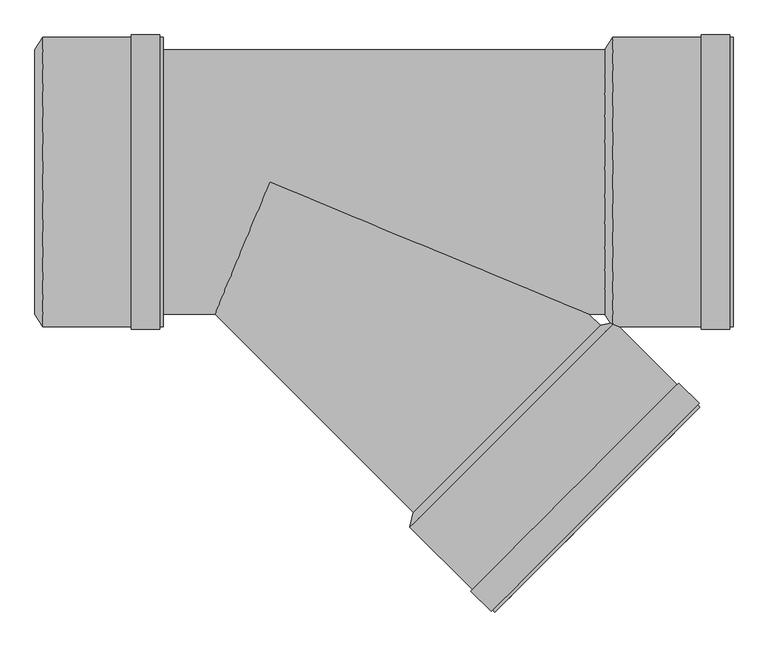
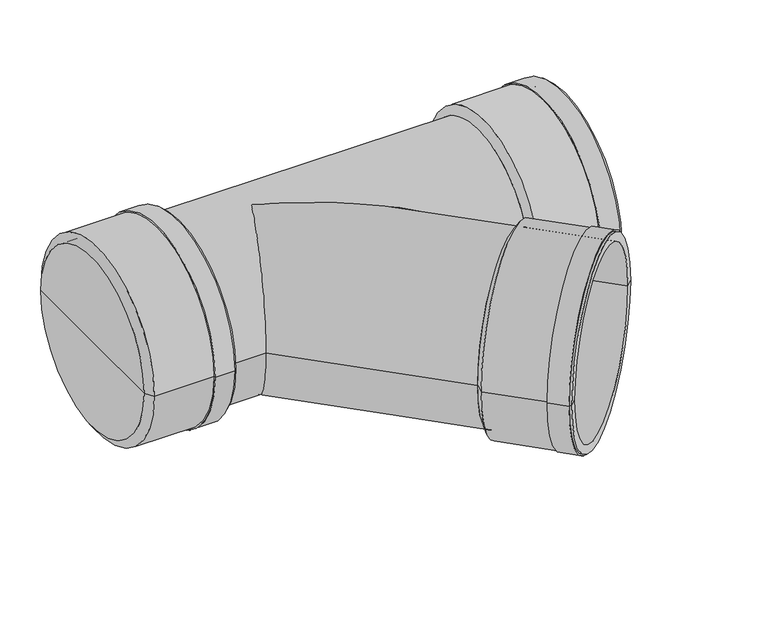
"""IFC4 building model written with IfcOpenShell, lengths in millimetres: pipe fitting geometry, pf_KGEA : pf_KGEA."""

from ifc_helpers import new_model, si_unit, frame, origin, place, context, project, spatial, polyline, circle_curve, ellipse_curve, source, transform, mapped, element, save
from ifc_brep_helpers import plane_surface, cylinder_surface, revolved_surface, advanced_brep


def pipe_fitting_2ef12dd6(model_context):
    return source(origin(), model_context, "Body", "AdvancedBrep", [
        advanced_brep(
        [(217.0110711, -499.8537836, 0.0), (499.8537836, -217.0110711, 0.0), (521.9862259, -212.1320344, 0.0), (212.1320344, -521.9862259, 0.0), (358.4324274, -358.4324274, 0.0), (340.6840472, -650.5382387, 0.0), (650.5382387, -340.6840472, 0.0), (637.0324992, -354.1897867, 0.0), (354.1897867, -637.0324992, 0.0), (337.2899346, -647.1441261, 0.0), (647.1441261, -337.2899346, 0.0), (334.8857716, -649.5482892, 0.0), (649.5482892, -334.8857716, 0.0), (304.0559159, -618.7184335, 0.0), (618.7184335, -304.0559159, 0.0), (306.460079, -616.3142705, 0.0), (616.3142705, -306.460079, 0.0), (225.6377739, -508.4804864, 0.0), (508.4804864, -225.6377739, 0.0), (367.0591301, -367.0591301, 0.0)],
        [
            (0, 1, circle_curve(frame((358.4324274, -358.4324274, 0.0), z_axis=(0.7071067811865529, -0.7071067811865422, 0.0), x_axis=(0.7071067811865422, 0.7071067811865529, 0.0)), 200.0)),
            (1, 2),
            (2, 3, circle_curve(frame((367.0591301, -367.0591301, 0.0), z_axis=(-0.7071067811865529, 0.7071067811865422, 0.0), x_axis=(0.7071067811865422, 0.7071067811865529, 0.0)), 219.1)),
            (3, 0),
            (1, 0, circle_curve(frame((358.4324274, -358.4324274, 0.0), z_axis=(0.7071067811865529, -0.7071067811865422, 0.0), x_axis=(0.7071067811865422, 0.7071067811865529, 0.0)), 200.0)),
            (3, 2, circle_curve(frame((367.0591301, -367.0591301, 0.0), z_axis=(-0.7071067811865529, 0.7071067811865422, 0.0), x_axis=(0.7071067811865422, 0.7071067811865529, 0.0)), 219.1)),
            (4, 1),
            (0, 4),
            (5, 6, circle_curve(frame((495.6111429, -495.6111429, 0.0), z_axis=(0.7071067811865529, -0.7071067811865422, 0.0), x_axis=(0.7071067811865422, 0.7071067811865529, 0.0)), 219.1)),
            (6, 7),
            (7, 8, circle_curve(frame((495.6111429, -495.6111429, 0.0), z_axis=(-0.7071067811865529, 0.7071067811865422, 0.0), x_axis=(0.7071067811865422, 0.7071067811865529, 0.0)), 200.0)),
            (8, 5),
            (6, 5, circle_curve(frame((495.6111429, -495.6111429, 0.0), z_axis=(0.7071067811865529, -0.7071067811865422, 0.0), x_axis=(0.7071067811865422, 0.7071067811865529, 0.0)), 219.1)),
            (8, 7, circle_curve(frame((495.6111429, -495.6111429, 0.0), z_axis=(-0.7071067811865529, 0.7071067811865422, 0.0), x_axis=(0.7071067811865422, 0.7071067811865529, 0.0)), 200.0)),
            (9, 10, circle_curve(frame((492.2170304, -492.2170304, 0.0), z_axis=(0.7071067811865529, -0.7071067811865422, 0.0), x_axis=(0.7071067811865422, 0.7071067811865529, 0.0)), 219.1)),
            (10, 6),
            (5, 9),
            (10, 9, circle_curve(frame((492.2170304, -492.2170304, 0.0), z_axis=(0.7071067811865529, -0.7071067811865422, 0.0), x_axis=(0.7071067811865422, 0.7071067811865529, 0.0)), 219.1)),
            (11, 12, circle_curve(frame((492.2170304, -492.2170304, 0.0), z_axis=(0.7071067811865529, -0.7071067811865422, 0.0), x_axis=(0.7071067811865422, 0.7071067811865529, 0.0)), 222.5)),
            (12, 10),
            (9, 11),
            (12, 11, circle_curve(frame((492.2170304, -492.2170304, 0.0), z_axis=(0.7071067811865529, -0.7071067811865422, 0.0), x_axis=(0.7071067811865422, 0.7071067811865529, 0.0)), 222.5)),
            (13, 14, circle_curve(frame((461.3871747, -461.3871747, 0.0), z_axis=(0.7071067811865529, -0.7071067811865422, 0.0), x_axis=(0.7071067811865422, 0.7071067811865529, 0.0)), 222.5)),
            (14, 12),
            (11, 13),
            (14, 13, circle_curve(frame((461.3871747, -461.3871747, 0.0), z_axis=(0.7071067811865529, -0.7071067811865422, 0.0), x_axis=(0.7071067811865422, 0.7071067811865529, 0.0)), 222.5)),
            (15, 16, circle_curve(frame((461.3871747, -461.3871747, 0.0), z_axis=(0.7071067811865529, -0.7071067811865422, 0.0), x_axis=(0.7071067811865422, 0.7071067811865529, 0.0)), 219.1)),
            (16, 14),
            (13, 15),
            (16, 15, circle_curve(frame((461.3871747, -461.3871747, 0.0), z_axis=(0.7071067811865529, -0.7071067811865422, 0.0), x_axis=(0.7071067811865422, 0.7071067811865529, 0.0)), 219.1)),
            (2, 16),
            (15, 3),
            (17, 18, circle_curve(frame((367.0591301, -367.0591301, 0.0), z_axis=(0.7071067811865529, -0.7071067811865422, 0.0), x_axis=(0.7071067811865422, 0.7071067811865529, 0.0)), 200.0)),
            (18, 19),
            (19, 17),
            (18, 17, circle_curve(frame((367.0591301, -367.0591301, 0.0), z_axis=(0.7071067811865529, -0.7071067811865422, 0.0), x_axis=(0.7071067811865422, 0.7071067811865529, 0.0)), 200.0)),
            (7, 18),
            (17, 8),
        ],
        [
            revolved_surface(polyline([(521.9862259, -212.1320344, 0.0), (499.8537836, -217.0110711, 0.0)]), (358.4324274, -358.4324274, 0.0), (-0.7071067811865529, 0.7071067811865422, 0.0)),
            plane_surface(frame((358.4324274, -358.4324274, 0.0), z_axis=(-0.7071067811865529, 0.7071067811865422, 0.0), x_axis=(0.7071067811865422, 0.7071067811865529, 0.0))),
            plane_surface(frame((495.6111429, -495.6111429, 0.0), z_axis=(0.7071067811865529, -0.7071067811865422, 0.0), x_axis=(0.7071067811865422, 0.7071067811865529, 0.0))),
            cylinder_surface(frame((358.4324274, -358.4324274, 0.0), z_axis=(-0.7071067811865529, 0.7071067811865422, 0.0), x_axis=(0.7071067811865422, 0.7071067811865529, 0.0)), 219.1),
            plane_surface(frame((492.2170304, -492.2170304, 0.0), z_axis=(0.7071067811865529, -0.7071067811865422, 0.0), x_axis=(0.7071067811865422, 0.7071067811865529, 0.0))),
            cylinder_surface(frame((358.4324274, -358.4324274, 0.0), z_axis=(-0.7071067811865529, 0.7071067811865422, 0.0), x_axis=(0.7071067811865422, 0.7071067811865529, 0.0)), 222.5),
            plane_surface(frame((461.3871747, -461.3871747, 0.0), z_axis=(-0.7071067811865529, 0.7071067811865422, 0.0), x_axis=(0.7071067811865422, 0.7071067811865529, 0.0))),
            plane_surface(frame((367.0591301, -367.0591301, 0.0), z_axis=(0.7071067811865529, -0.7071067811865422, 0.0), x_axis=(0.7071067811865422, 0.7071067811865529, 0.0))),
            revolved_surface(polyline([(508.4804863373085, -225.63777386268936, 0.0), (637.0324991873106, -354.18978671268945, 0.0)]), (358.4324274, -358.4324274, 0.0), (-0.7071067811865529, 0.7071067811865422, 0.0)),
        ],
        [
            (0, [[1, 2, 3, 4]]),
            (0, [[5, -4, 6, -2]]),
            (1, [[7, -1, 8]]),
            (1, [[-8, -5, -7]]),
            (2, [[9, 10, 11, 12]]),
            (2, [[13, -12, 14, -10]]),
            (3, [[15, 16, -9, 17]]),
            (3, [[18, -17, -13, -16]]),
            (4, [[19, 20, -15, 21]]),
            (4, [[22, -21, -18, -20]]),
            (5, [[23, 24, -19, 25]]),
            (5, [[26, -25, -22, -24]]),
            (6, [[27, 28, -23, 29]]),
            (6, [[30, -29, -26, -28]]),
            (3, [[-3, 31, -27, 32]]),
            (3, [[-6, -32, -30, -31]]),
            (7, [[33, 34, 35]]),
            (7, [[36, -35, -34]]),
            (8, [[-11, 37, -33, 38]]),
            (8, [[-14, -38, -36, -37]]),
        ],
    ),
        advanced_brep(
        [(506.9, -200.0, 0.0), (506.9, 200.0, 0.0), (519.1, 219.1, 0.0), (519.1, -219.1, 0.0), (506.9, 0.0, 0.0), (700.9, -219.1, 0.0), (700.9, 219.1, 0.0), (700.9, 200.0, 0.0), (700.9, -200.0, 0.0), (696.1, -219.1, 0.0), (696.1, 219.1, 0.0), (696.1, -222.5, 0.0), (696.1, 222.5, 0.0), (652.5, -222.5, 0.0), (652.5, 222.5, 0.0), (652.5, -219.1, 0.0), (652.5, 219.1, 0.0), (519.1, -200.0, 0.0), (519.1, 200.0, 0.0), (519.1, 0.0, 0.0)],
        [
            (0, 1, circle_curve(frame((506.9, 0.0, 0.0), z_axis=(1.0, 0.0, 0.0), x_axis=(0.0, 1.0, 0.0)), 200.0)),
            (1, 2),
            (2, 3, circle_curve(frame((519.1, 0.0, 0.0), z_axis=(-1.0, 0.0, 0.0), x_axis=(0.0, 1.0, 0.0)), 219.1)),
            (3, 0),
            (1, 0, circle_curve(frame((506.9, 0.0, 0.0), z_axis=(1.0, 0.0, 0.0), x_axis=(0.0, 1.0, 0.0)), 200.0)),
            (3, 2, circle_curve(frame((519.1, 0.0, 0.0), z_axis=(-1.0, 0.0, 0.0), x_axis=(0.0, 1.0, 0.0)), 219.1)),
            (4, 1),
            (0, 4),
            (5, 6, circle_curve(frame((700.9, 0.0, 0.0), z_axis=(1.0, 0.0, 0.0), x_axis=(0.0, 1.0, 0.0)), 219.1)),
            (6, 7),
            (7, 8, circle_curve(frame((700.9, 0.0, 0.0), z_axis=(-1.0, 0.0, 0.0), x_axis=(0.0, 1.0, 0.0)), 200.0)),
            (8, 5),
            (6, 5, circle_curve(frame((700.9, 0.0, 0.0), z_axis=(1.0, 0.0, 0.0), x_axis=(0.0, 1.0, 0.0)), 219.1)),
            (8, 7, circle_curve(frame((700.9, 0.0, 0.0), z_axis=(-1.0, 0.0, 0.0), x_axis=(0.0, 1.0, 0.0)), 200.0)),
            (9, 10, circle_curve(frame((696.1, 0.0, 0.0), z_axis=(1.0, 0.0, 0.0), x_axis=(0.0, 1.0, 0.0)), 219.1)),
            (10, 6),
            (5, 9),
            (10, 9, circle_curve(frame((696.1, 0.0, 0.0), z_axis=(1.0, 0.0, 0.0), x_axis=(0.0, 1.0, 0.0)), 219.1)),
            (11, 12, circle_curve(frame((696.1, 0.0, 0.0), z_axis=(1.0, 0.0, 0.0), x_axis=(0.0, 1.0, 0.0)), 222.5)),
            (12, 10),
            (9, 11),
            (12, 11, circle_curve(frame((696.1, 0.0, 0.0), z_axis=(1.0, 0.0, 0.0), x_axis=(0.0, 1.0, 0.0)), 222.5)),
            (13, 14, circle_curve(frame((652.5, 0.0, 0.0), z_axis=(1.0, 0.0, 0.0), x_axis=(0.0, 1.0, 0.0)), 222.5)),
            (14, 12),
            (11, 13),
            (14, 13, circle_curve(frame((652.5, 0.0, 0.0), z_axis=(1.0, 0.0, 0.0), x_axis=(0.0, 1.0, 0.0)), 222.5)),
            (15, 16, circle_curve(frame((652.5, 0.0, 0.0), z_axis=(1.0, 0.0, 0.0), x_axis=(0.0, 1.0, 0.0)), 219.1)),
            (16, 14),
            (13, 15),
            (16, 15, circle_curve(frame((652.5, 0.0, 0.0), z_axis=(1.0, 0.0, 0.0), x_axis=(0.0, 1.0, 0.0)), 219.1)),
            (2, 16),
            (15, 3),
            (17, 18, circle_curve(frame((519.1, 0.0, 0.0), z_axis=(1.0, 0.0, 0.0), x_axis=(0.0, 1.0, 0.0)), 200.0)),
            (18, 19),
            (19, 17),
            (18, 17, circle_curve(frame((519.1, 0.0, 0.0), z_axis=(1.0, 0.0, 0.0), x_axis=(0.0, 1.0, 0.0)), 200.0)),
            (7, 18),
            (17, 8),
        ],
        [
            revolved_surface(polyline([(519.1, 219.1, 0.0), (506.9, 200.0, 0.0)]), (506.9, 0.0, 0.0), (-1.0, 0.0, 0.0)),
            plane_surface(frame((506.9, 0.0, 0.0), z_axis=(-1.0, 0.0, 0.0), x_axis=(0.0, 1.0, 0.0))),
            plane_surface(frame((700.9, 0.0, 0.0), z_axis=(1.0, 0.0, 0.0), x_axis=(0.0, 1.0, 0.0))),
            cylinder_surface(frame((506.9, 0.0, 0.0), z_axis=(-1.0, 0.0, 0.0), x_axis=(0.0, 1.0, 0.0)), 219.1),
            plane_surface(frame((696.1, 0.0, 0.0), z_axis=(1.0, 0.0, 0.0), x_axis=(0.0, 1.0, 0.0))),
            cylinder_surface(frame((506.9, 0.0, 0.0), z_axis=(-1.0, 0.0, 0.0), x_axis=(0.0, 1.0, 0.0)), 222.5),
            plane_surface(frame((652.5, 0.0, 0.0), z_axis=(-1.0, 0.0, 0.0), x_axis=(0.0, 1.0, 0.0))),
            plane_surface(frame((519.1, 0.0, 0.0), z_axis=(1.0, 0.0, 0.0), x_axis=(0.0, 1.0, 0.0))),
            revolved_surface(polyline([(519.1, 200.0, 0.0), (700.9, 200.0, 0.0)]), (506.9, 0.0, 0.0), (-1.0, 0.0, 0.0)),
        ],
        [
            (0, [[1, 2, 3, 4]]),
            (0, [[5, -4, 6, -2]]),
            (1, [[7, -1, 8]]),
            (1, [[-8, -5, -7]]),
            (2, [[9, 10, 11, 12]]),
            (2, [[13, -12, 14, -10]]),
            (3, [[15, 16, -9, 17]]),
            (3, [[18, -17, -13, -16]]),
            (4, [[19, 20, -15, 21]]),
            (4, [[22, -21, -18, -20]]),
            (5, [[23, 24, -19, 25]]),
            (5, [[26, -25, -22, -24]]),
            (6, [[27, 28, -23, 29]]),
            (6, [[30, -29, -26, -28]]),
            (3, [[-3, 31, -27, 32]]),
            (3, [[-6, -32, -30, -31]]),
            (7, [[33, 34, 35]]),
            (7, [[36, -35, -34]]),
            (8, [[-11, 37, -33, 38]]),
            (8, [[-14, -38, -36, -37]]),
        ],
    ),
        advanced_brep(
        [(-355.3, -200.0, 0.0), (-355.3, 200.0, 0.0), (-343.1, 219.1, 0.0), (-343.1, -219.1, 0.0), (-355.3, 0.0, 0.0), (-161.3, -219.1, 0.0), (-161.3, 219.1, 0.0), (-161.3, 200.0, 0.0), (-161.3, -200.0, 0.0), (-166.1, -219.1, 0.0), (-166.1, 219.1, 0.0), (-166.1, -222.5, 0.0), (-166.1, 222.5, 0.0), (-209.7, -222.5, 0.0), (-209.7, 222.5, 0.0), (-209.7, -219.1, 0.0), (-209.7, 219.1, 0.0), (-343.1, -200.0, 0.0), (-343.1, 200.0, 0.0), (-343.1, 0.0, 0.0)],
        [
            (0, 1, circle_curve(frame((-355.3, 0.0, 0.0), z_axis=(1.0, 0.0, 0.0), x_axis=(0.0, 1.0, 0.0)), 200.0)),
            (1, 2),
            (2, 3, circle_curve(frame((-343.1, 0.0, 0.0), z_axis=(-1.0, 0.0, 0.0), x_axis=(0.0, 1.0, 0.0)), 219.1)),
            (3, 0),
            (1, 0, circle_curve(frame((-355.3, 0.0, 0.0), z_axis=(1.0, 0.0, 0.0), x_axis=(0.0, 1.0, 0.0)), 200.0)),
            (3, 2, circle_curve(frame((-343.1, 0.0, 0.0), z_axis=(-1.0, 0.0, 0.0), x_axis=(0.0, 1.0, 0.0)), 219.1)),
            (4, 1),
            (0, 4),
            (5, 6, circle_curve(frame((-161.3, 0.0, 0.0), z_axis=(1.0, 0.0, 0.0), x_axis=(0.0, 1.0, 0.0)), 219.1)),
            (6, 7),
            (7, 8, circle_curve(frame((-161.3, 0.0, 0.0), z_axis=(-1.0, 0.0, 0.0), x_axis=(0.0, 1.0, 0.0)), 200.0)),
            (8, 5),
            (6, 5, circle_curve(frame((-161.3, 0.0, 0.0), z_axis=(1.0, 0.0, 0.0), x_axis=(0.0, 1.0, 0.0)), 219.1)),
            (8, 7, circle_curve(frame((-161.3, 0.0, 0.0), z_axis=(-1.0, 0.0, 0.0), x_axis=(0.0, 1.0, 0.0)), 200.0)),
            (9, 10, circle_curve(frame((-166.1, 0.0, 0.0), z_axis=(1.0, 0.0, 0.0), x_axis=(0.0, 1.0, 0.0)), 219.1)),
            (10, 6),
            (5, 9),
            (10, 9, circle_curve(frame((-166.1, 0.0, 0.0), z_axis=(1.0, 0.0, 0.0), x_axis=(0.0, 1.0, 0.0)), 219.1)),
            (11, 12, circle_curve(frame((-166.1, 0.0, 0.0), z_axis=(1.0, 0.0, 0.0), x_axis=(0.0, 1.0, 0.0)), 222.5)),
            (12, 10),
            (9, 11),
            (12, 11, circle_curve(frame((-166.1, 0.0, 0.0), z_axis=(1.0, 0.0, 0.0), x_axis=(0.0, 1.0, 0.0)), 222.5)),
            (13, 14, circle_curve(frame((-209.7, 0.0, 0.0), z_axis=(1.0, 0.0, 0.0), x_axis=(0.0, 1.0, 0.0)), 222.5)),
            (14, 12),
            (11, 13),
            (14, 13, circle_curve(frame((-209.7, 0.0, 0.0), z_axis=(1.0, 0.0, 0.0), x_axis=(0.0, 1.0, 0.0)), 222.5)),
            (15, 16, circle_curve(frame((-209.7, 0.0, 0.0), z_axis=(1.0, 0.0, 0.0), x_axis=(0.0, 1.0, 0.0)), 219.1)),
            (16, 14),
            (13, 15),
            (16, 15, circle_curve(frame((-209.7, 0.0, 0.0), z_axis=(1.0, 0.0, 0.0), x_axis=(0.0, 1.0, 0.0)), 219.1)),
            (2, 16),
            (15, 3),
            (17, 18, circle_curve(frame((-343.1, 0.0, 0.0), z_axis=(1.0, 0.0, 0.0), x_axis=(0.0, 1.0, 0.0)), 200.0)),
            (18, 19),
            (19, 17),
            (18, 17, circle_curve(frame((-343.1, 0.0, 0.0), z_axis=(1.0, 0.0, 0.0), x_axis=(0.0, 1.0, 0.0)), 200.0)),
            (7, 18),
            (17, 8),
        ],
        [
            revolved_surface(polyline([(-343.1, 219.1, 0.0), (-355.3, 200.0, 0.0)]), (-355.3, 0.0, 0.0), (-1.0, 0.0, 0.0)),
            plane_surface(frame((-355.3, 0.0, 0.0), z_axis=(-1.0, 0.0, 0.0), x_axis=(0.0, 1.0, 0.0))),
            plane_surface(frame((-161.3, 0.0, 0.0), z_axis=(1.0, 0.0, 0.0), x_axis=(0.0, 1.0, 0.0))),
            cylinder_surface(frame((-355.3, 0.0, 0.0), z_axis=(-1.0, 0.0, 0.0), x_axis=(0.0, 1.0, 0.0)), 219.1),
            plane_surface(frame((-166.1, 0.0, 0.0), z_axis=(1.0, 0.0, 0.0), x_axis=(0.0, 1.0, 0.0))),
            cylinder_surface(frame((-355.3, 0.0, 0.0), z_axis=(-1.0, 0.0, 0.0), x_axis=(0.0, 1.0, 0.0)), 222.5),
            plane_surface(frame((-209.7, 0.0, 0.0), z_axis=(-1.0, 0.0, 0.0), x_axis=(0.0, 1.0, 0.0))),
            plane_surface(frame((-343.1, 0.0, 0.0), z_axis=(1.0, 0.0, 0.0), x_axis=(0.0, 1.0, 0.0))),
            revolved_surface(polyline([(-343.1, 200.0, 0.0), (-161.3, 200.0, 0.0)]), (-355.3, 0.0, 0.0), (-1.0, 0.0, 0.0)),
        ],
        [
            (0, [[1, 2, 3, 4]]),
            (0, [[5, -4, 6, -2]]),
            (1, [[7, -1, 8]]),
            (1, [[-8, -5, -7]]),
            (2, [[9, 10, 11, 12]]),
            (2, [[13, -12, 14, -10]]),
            (3, [[15, 16, -9, 17]]),
            (3, [[18, -17, -13, -16]]),
            (4, [[19, 20, -15, 21]]),
            (4, [[22, -21, -18, -20]]),
            (5, [[23, 24, -19, 25]]),
            (5, [[26, -25, -22, -24]]),
            (6, [[27, 28, -23, 29]]),
            (6, [[30, -29, -26, -28]]),
            (3, [[-3, 31, -27, 32]]),
            (3, [[-6, -32, -30, -31]]),
            (7, [[33, 34, 35]]),
            (7, [[36, -35, -34]]),
            (8, [[-11, 37, -33, 38]]),
            (8, [[-14, -38, -36, -37]]),
        ],
    ),
        advanced_brep(
        [(-343.1, -200.0, 0.0), (-343.1, 200.0, 0.0), (506.9, -200.0, 0.0), (506.9, 200.0, 0.0), (-82.8427125, -200.0, 0.0), (0.0, 0.0, 200.0), (482.8427125, -200.0, 0.0), (0.0, 0.0, -200.0), (217.0110711, -499.8537836, 0.0), (499.8537836, -217.0110711, 0.0)],
        [
            (0, 1, circle_curve(frame((-343.1, 0.0, 0.0), z_axis=(-1.0, 0.0, 0.0), x_axis=(0.0, 1.0, 0.0)), 200.0)),
            (1, 0, circle_curve(frame((-343.1, 0.0, 0.0), z_axis=(-1.0, 0.0, 0.0), x_axis=(0.0, 1.0, 0.0)), 200.0)),
            (2, 3, circle_curve(frame((506.9, 0.0, 0.0), z_axis=(1.0, 0.0, 0.0), x_axis=(0.0, 1.0, 0.0)), 200.0)),
            (3, 2, circle_curve(frame((506.9, 0.0, 0.0), z_axis=(1.0, 0.0, 0.0), x_axis=(0.0, 1.0, 0.0)), 200.0)),
            (0, 4),
            (4, 5, ellipse_curve(frame((0.0, 0.0, 0.0), z_axis=(-0.923879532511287, 0.38268343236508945, 0.0), x_axis=(-0.38268343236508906, -0.9238795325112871, 0.0)), 216.4784401, 200.0)),
            (5, 6, ellipse_curve(frame((0.0, 0.0, 0.0), z_axis=(0.3826834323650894, 0.9238795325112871, 0.0), x_axis=(-0.923879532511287, 0.38268343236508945, 0.0)), 522.625186, 200.0)),
            (6, 2),
            (3, 1),
            (6, 7, ellipse_curve(frame((0.0, 0.0, 0.0), z_axis=(0.3826834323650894, 0.9238795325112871, 0.0), x_axis=(-0.923879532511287, 0.38268343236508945, 0.0)), 522.625186, 200.0)),
            (7, 4, ellipse_curve(frame((0.0, 0.0, 0.0), z_axis=(-0.923879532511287, 0.38268343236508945, 0.0), x_axis=(-0.38268343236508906, -0.9238795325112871, 0.0)), 216.4784401, 200.0)),
            (8, 9, circle_curve(frame((358.4324274, -358.4324274, 0.0), z_axis=(0.7071067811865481, -0.707106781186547, 0.0), x_axis=(0.707106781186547, 0.7071067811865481, 0.0)), 200.0)),
            (9, 8, circle_curve(frame((358.4324274, -358.4324274, 0.0), z_axis=(0.7071067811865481, -0.707106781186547, 0.0), x_axis=(0.707106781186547, 0.7071067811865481, 0.0)), 200.0)),
            (9, 6),
            (4, 8),
        ],
        [
            plane_surface(frame((-343.1, 0.0, 0.0), z_axis=(-1.0, 0.0, 0.0), x_axis=(0.0, 0.0, 1.0))),
            plane_surface(frame((506.9, 0.0, 0.0), z_axis=(1.0, 0.0, 0.0), x_axis=(0.0, 0.0, 1.0))),
            cylinder_surface(frame((-343.1, 0.0, 0.0), z_axis=(-1.0, 0.0, 0.0), x_axis=(0.0, 1.0, 0.0)), 200.0),
            plane_surface(frame((358.4324274, -358.4324274, 0.0), z_axis=(0.7071067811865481, -0.707106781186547, 0.0), x_axis=(0.0, 0.0, 1.0))),
            cylinder_surface(frame((0.0, 0.0, 0.0), z_axis=(-0.7071067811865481, 0.707106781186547, 0.0), x_axis=(0.707106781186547, 0.7071067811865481, 0.0)), 200.0),
        ],
        [
            (0, [[1, 2]]),
            (1, [[3, 4]]),
            (2, [[-1, 5, 6, 7, 8, -4, 9]]),
            (2, [[-2, -9, -3, -8, 10, 11, -5]]),
            (3, [[12, 13]]),
            (4, [[-13, 14, -7, -6, 15]]),
            (4, [[-12, -15, -11, -10, -14]]),
        ],
    ),
    ])


if __name__ == "__main__":
    model = new_model("IFC4")
    model_context = context("Model", 3, world=origin())
    ifc_project = project(units=[si_unit("LENGTHUNIT", "METRE", prefix="MILLI")], contexts=[model_context])
    site = spatial("IfcSite", under=ifc_project)
    building = spatial("IfcBuilding", under=site)
    placement = place(None, origin())
    pipe_fitting_shape = pipe_fitting_2ef12dd6(model_context)
    element("IfcPipeFitting", 1, ObjectType="pf_KGEA : pf_KGEA", at=placement, inside=building, context=model_context, shape_type="MappedRepresentation", body=[
        mapped(pipe_fitting_shape, transform((0.0, 0.0, 0.0), x_axis=(1.0, 0.0, 0.0), y_axis=(0.0, 1.0, 0.0), z_axis=(0.0, 0.0, 1.0))),
    ])
    save(model, "model.ifc")
